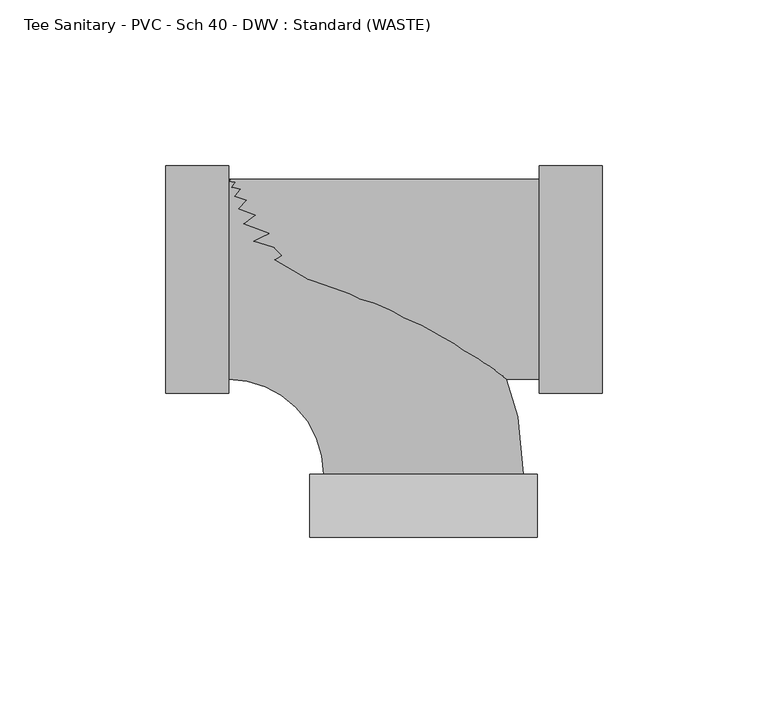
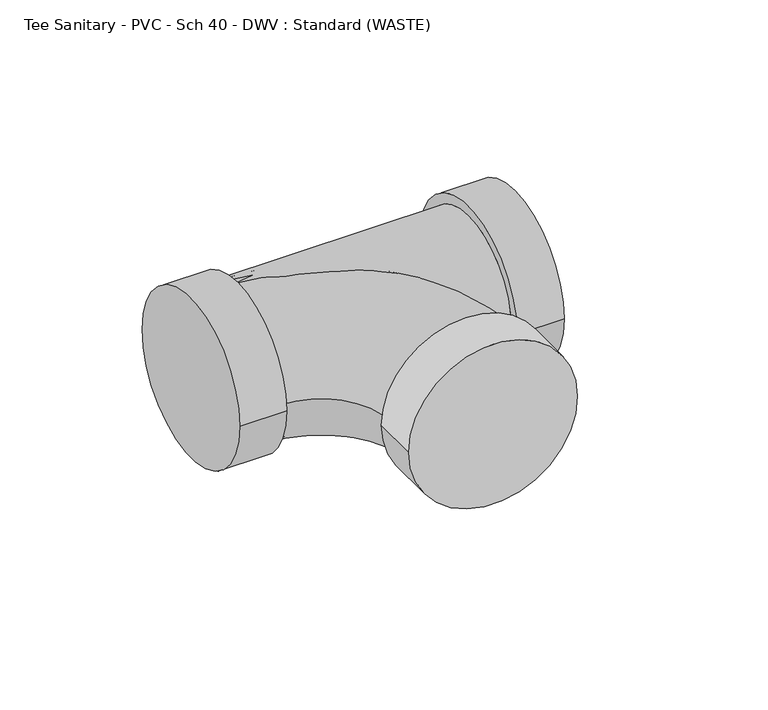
"""IFC4 building model written with IfcOpenShell, lengths in millimetres: pipe fitting geometry, Tee Sanitary - PVC - Sch 40 - DWV : Standard (WASTE)."""

from ifc_helpers import new_model, si_unit, point, frame, origin, place, context, project, spatial, circle_curve, ellipse_curve, trimmed, source, transform, mapped, element, save
from ifc_brep_helpers import plane_surface, cylinder_surface, revolved_surface, advanced_brep


def tee_sanitary_pvc_sch_40_dwv_standard_waste_adc7debc(model_context):
    return source(origin(), model_context, "Body", "AdvancedBrep", [
        advanced_brep(
        [(-58.7502, -30.1625, 0.0), (-58.7502, 30.1625, 0.0), (-30.1625, -58.7502, 0.0), (30.1625, -58.7502, 0.0), (34.3154, -77.8002, 0.0), (-34.3154, -77.8002, 0.0), (34.3154, -58.7502, 0.0), (-34.3154, -58.7502, 0.0)],
        [
            (0, 1, circle_curve(frame((-58.7502, 0.0, 0.0), z_axis=(-1.0, 0.0, 0.0), x_axis=(0.0, 1.0, 0.0)), 30.1625)),
            (1, 0, circle_curve(frame((-58.7502, 0.0, 0.0), z_axis=(-1.0, 0.0, 0.0), x_axis=(0.0, 1.0, 0.0)), 30.1625)),
            (0, 2, circle_curve(frame((-58.7502, -58.7502, 0.0), z_axis=(0.0, 0.0, -1.0), x_axis=(0.0, 1.0, 0.0)), 28.5877)),
            (2, 3, circle_curve(frame((0.0, -58.7502, 0.0), z_axis=(0.0, 1.0, 0.0), x_axis=(1.0, 0.0, 0.0)), 30.1625)),
            (3, 1, circle_curve(frame((-58.7502, -58.7502, 0.0), z_axis=(0.0, 0.0, 1.0), x_axis=(0.0, 1.0, 0.0)), 88.9127)),
            (3, 2, circle_curve(frame((0.0, -58.7502, 0.0), z_axis=(0.0, 1.0, 0.0), x_axis=(1.0, 0.0, 0.0)), 30.1625)),
            (4, 5, circle_curve(frame((0.0, -77.8002, 0.0), z_axis=(0.0, -1.0, 0.0), x_axis=(-1.0, 0.0, 0.0)), 34.3154)),
            (5, 4, circle_curve(frame((0.0, -77.8002, 0.0), z_axis=(0.0, -1.0, 0.0), x_axis=(-1.0, 0.0, 0.0)), 34.3154)),
            (6, 7, circle_curve(frame((0.0, -58.7502, 0.0), z_axis=(0.0, 1.0, 0.0), x_axis=(-1.0, 0.0, 0.0)), 34.3154)),
            (7, 6, circle_curve(frame((0.0, -58.7502, 0.0), z_axis=(0.0, 1.0, 0.0), x_axis=(-1.0, 0.0, 0.0)), 34.3154)),
            (4, 6),
            (7, 5),
        ],
        [
            plane_surface(frame((-58.7502, 0.0, 0.0), z_axis=(-1.0, 0.0, 0.0), x_axis=(0.0, 0.0, 1.0))),
            revolved_surface(trimmed(ellipse_curve(frame((-58.7502, 0.0, 0.0), z_axis=(-1.0, 0.0, 0.0), x_axis=(0.0, 1.0, 0.0)), 30.1625, 30.1625), [point((-58.7502, -30.1625, 0.0))], [point((-58.7502, 30.1625, 0.0))], True, "CARTESIAN"), (-58.7502, -58.7502, 0.0), (0.0, 0.0, -1.0)),
            revolved_surface(trimmed(ellipse_curve(frame((-58.7502, 0.0, 0.0), z_axis=(-1.0, 0.0, 0.0), x_axis=(0.0, 1.0, 0.0)), 30.1625, 30.1625), [point((-58.7502, 30.1625, 0.0))], [point((-58.7502, -30.1625, 0.0))], True, "CARTESIAN"), (-58.7502, -58.7502, 0.0), (0.0, 0.0, -1.0)),
            plane_surface(frame((0.0, -77.8002, 0.0), z_axis=(0.0, -1.0, 0.0), x_axis=(0.0, 0.0, 1.0))),
            plane_surface(frame((0.0, -58.7502, 0.0), z_axis=(0.0, 1.0, 0.0), x_axis=(0.0, 0.0, 1.0))),
            cylinder_surface(frame((0.0, -77.8002, 0.0), z_axis=(0.0, -1.0, 0.0), x_axis=(-1.0, 0.0, 0.0)), 34.3154),
        ],
        [
            (0, [[1, 2]]),
            (1, [[-1, 3, 4, 5]]),
            (2, [[-2, -5, 6, -3]]),
            (3, [[7, 8]]),
            (4, [[9, 10], [-4, -6]]),
            (5, [[-7, 11, -10, 12]]),
            (5, [[-8, -12, -9, -11]]),
        ],
    ),
        advanced_brep(
        [(34.3154, -77.8002, 0.0), (-34.3154, -77.8002, 0.0), (-58.7502, -30.1625, 0.0), (-58.7502, 30.1625, 0.0), (-30.1625, -58.7502, 0.0), (30.1625, -58.7502, 0.0), (34.3154, -58.7502, 0.0), (-34.3154, -58.7502, 0.0)],
        [
            (0, 1, circle_curve(frame((0.0, -77.8002, 0.0), z_axis=(0.0, -1.0, 0.0), x_axis=(-1.0, 0.0, 0.0)), 34.3154)),
            (1, 0, circle_curve(frame((0.0, -77.8002, 0.0), z_axis=(0.0, -1.0, 0.0), x_axis=(-1.0, 0.0, 0.0)), 34.3154)),
            (2, 3, circle_curve(frame((-58.7502, 0.0, 0.0), z_axis=(-1.0, 0.0, 0.0), x_axis=(0.0, 1.0, 0.0)), 30.1625)),
            (3, 2, circle_curve(frame((-58.7502, 0.0, 0.0), z_axis=(-1.0, 0.0, 0.0), x_axis=(0.0, 1.0, 0.0)), 30.1625)),
            (2, 4, circle_curve(frame((-58.7502, -58.7502, 0.0), z_axis=(0.0, 0.0, -1.0), x_axis=(0.0, 1.0, 0.0)), 28.5877)),
            (4, 5, circle_curve(frame((0.0, -58.7502, 0.0), z_axis=(0.0, 1.0, 0.0), x_axis=(1.0, 0.0, 0.0)), 30.1625)),
            (5, 3, circle_curve(frame((-58.7502, -58.7502, 0.0), z_axis=(0.0, 0.0, 1.0), x_axis=(0.0, 1.0, 0.0)), 88.9127)),
            (5, 4, circle_curve(frame((0.0, -58.7502, 0.0), z_axis=(0.0, 1.0, 0.0), x_axis=(1.0, 0.0, 0.0)), 30.1625)),
            (6, 7, circle_curve(frame((0.0, -58.7502, 0.0), z_axis=(0.0, 1.0, 0.0), x_axis=(-1.0, 0.0, 0.0)), 34.3154)),
            (7, 6, circle_curve(frame((0.0, -58.7502, 0.0), z_axis=(0.0, 1.0, 0.0), x_axis=(-1.0, 0.0, 0.0)), 34.3154)),
            (0, 6),
            (7, 1),
        ],
        [
            plane_surface(frame((0.0, -77.8002, 0.0), z_axis=(0.0, -1.0, 0.0), x_axis=(0.0, 0.0, 1.0))),
            plane_surface(frame((-58.7502, 0.0, 0.0), z_axis=(-1.0, 0.0, 0.0), x_axis=(0.0, 0.0, 1.0))),
            revolved_surface(trimmed(ellipse_curve(frame((-58.7502, 0.0, 0.0), z_axis=(-1.0, 0.0, 0.0), x_axis=(0.0, 1.0, 0.0)), 30.1625, 30.1625), [point((-58.7502, -30.1625, 0.0))], [point((-58.7502, 30.1625, 0.0))], True, "CARTESIAN"), (-58.7502, -58.7502, 0.0), (0.0, 0.0, -1.0)),
            revolved_surface(trimmed(ellipse_curve(frame((-58.7502, 0.0, 0.0), z_axis=(-1.0, 0.0, 0.0), x_axis=(0.0, 1.0, 0.0)), 30.1625, 30.1625), [point((-58.7502, 30.1625, 0.0))], [point((-58.7502, -30.1625, 0.0))], True, "CARTESIAN"), (-58.7502, -58.7502, 0.0), (0.0, 0.0, -1.0)),
            plane_surface(frame((0.0, -58.7502, 0.0), z_axis=(0.0, 1.0, 0.0), x_axis=(0.0, 0.0, 1.0))),
            cylinder_surface(frame((0.0, -77.8002, 0.0), z_axis=(0.0, -1.0, 0.0), x_axis=(-1.0, 0.0, 0.0)), 34.3154),
        ],
        [
            (0, [[1, 2]]),
            (1, [[3, 4]]),
            (2, [[-3, 5, 6, 7]]),
            (3, [[-4, -7, 8, -5]]),
            (4, [[9, 10], [-6, -8]]),
            (5, [[-1, 11, -10, 12]]),
            (5, [[-2, -12, -9, -11]]),
        ],
    ),
        advanced_brep(
        [(-58.7502, -30.1625, 0.0), (34.925, -30.1625, 0.0), (34.925, 30.1625, 0.0), (-58.7502, 30.1625, 0.0), (34.925, -34.3154, 0.0), (34.925, 34.3154, 0.0), (53.975, -34.3154, 0.0), (53.975, 34.3154, 0.0), (-77.8002, -34.3154, 0.0), (-77.8002, 34.3154, 0.0), (-58.7502, -34.3154, 0.0), (-58.7502, 34.3154, 0.0)],
        [
            (0, 1),
            (1, 2, circle_curve(frame((34.925, 0.0, 0.0), z_axis=(-1.0, 0.0, 0.0), x_axis=(0.0, 1.0, 0.0)), 30.1625)),
            (2, 3),
            (3, 0, circle_curve(frame((-58.7502, 0.0, 0.0), z_axis=(1.0, 0.0, 0.0), x_axis=(0.0, 1.0, 0.0)), 30.1625)),
            (0, 3, circle_curve(frame((-58.7502, 0.0, 0.0), z_axis=(1.0, 0.0, 0.0), x_axis=(0.0, 1.0, 0.0)), 30.1625)),
            (2, 1, circle_curve(frame((34.925, 0.0, 0.0), z_axis=(-1.0, 0.0, 0.0), x_axis=(0.0, 1.0, 0.0)), 30.1625)),
            (4, 5, circle_curve(frame((34.925, 0.0, 0.0), z_axis=(-1.0, 0.0, 0.0), x_axis=(0.0, 1.0, 0.0)), 34.3154)),
            (5, 4, circle_curve(frame((34.925, 0.0, 0.0), z_axis=(-1.0, 0.0, 0.0), x_axis=(0.0, 1.0, 0.0)), 34.3154)),
            (6, 7, circle_curve(frame((53.975, 0.0, 0.0), z_axis=(1.0, 0.0, 0.0), x_axis=(0.0, 1.0, 0.0)), 34.3154)),
            (7, 6, circle_curve(frame((53.975, 0.0, 0.0), z_axis=(1.0, 0.0, 0.0), x_axis=(0.0, 1.0, 0.0)), 34.3154)),
            (4, 6),
            (7, 5),
            (8, 9, circle_curve(frame((-77.8002, 0.0, 0.0), z_axis=(-1.0, 0.0, 0.0), x_axis=(0.0, 1.0, 0.0)), 34.3154)),
            (9, 8, circle_curve(frame((-77.8002, 0.0, 0.0), z_axis=(-1.0, 0.0, 0.0), x_axis=(0.0, 1.0, 0.0)), 34.3154)),
            (10, 11, circle_curve(frame((-58.7502, 0.0, 0.0), z_axis=(1.0, 0.0, 0.0), x_axis=(0.0, 1.0, 0.0)), 34.3154)),
            (11, 10, circle_curve(frame((-58.7502, 0.0, 0.0), z_axis=(1.0, 0.0, 0.0), x_axis=(0.0, 1.0, 0.0)), 34.3154)),
            (8, 10),
            (11, 9),
        ],
        [
            cylinder_surface(frame((-58.7502, 0.0, 0.0), z_axis=(-1.0, 0.0, 0.0), x_axis=(0.0, 1.0, 0.0)), 30.1625),
            plane_surface(frame((34.925, 0.0, 0.0), z_axis=(-1.0, 0.0, 0.0), x_axis=(0.0, 0.0, 1.0))),
            plane_surface(frame((53.975, 0.0, 0.0), z_axis=(1.0, 0.0, 0.0), x_axis=(0.0, 0.0, 1.0))),
            cylinder_surface(frame((34.925, 0.0, 0.0), z_axis=(-1.0, 0.0, 0.0), x_axis=(0.0, 1.0, 0.0)), 34.3154),
            plane_surface(frame((-77.8002, 0.0, 0.0), z_axis=(-1.0, 0.0, 0.0), x_axis=(0.0, 0.0, 1.0))),
            plane_surface(frame((-58.7502, 0.0, 0.0), z_axis=(1.0, 0.0, 0.0), x_axis=(0.0, 0.0, 1.0))),
            cylinder_surface(frame((-77.8002, 0.0, 0.0), z_axis=(-1.0, 0.0, 0.0), x_axis=(0.0, 1.0, 0.0)), 34.3154),
        ],
        [
            (0, [[1, 2, 3, 4]]),
            (0, [[-1, 5, -3, 6]]),
            (1, [[7, 8], [-2, -6]]),
            (2, [[9, 10]]),
            (3, [[-7, 11, -10, 12]]),
            (3, [[-8, -12, -9, -11]]),
            (4, [[13, 14]]),
            (5, [[15, 16], [-4, -5]]),
            (6, [[-13, 17, -16, 18]]),
            (6, [[-14, -18, -15, -17]]),
        ],
    ),
        advanced_brep(
        [(-77.8002, -34.3154, 0.0), (-77.8002, 34.3154, 0.0), (-58.7502, -34.3154, 0.0), (-58.7502, 34.3154, 0.0), (-58.7502, -30.1625, 0.0), (-58.7502, 30.1625, 0.0), (34.925, -30.1625, 0.0), (34.925, 30.1625, 0.0), (53.975, 34.3154, 0.0), (53.975, -34.3154, 0.0), (34.925, 34.3154, 0.0), (34.925, -34.3154, 0.0)],
        [
            (0, 1, circle_curve(frame((-77.8002, 0.0, 0.0), z_axis=(-1.0, 0.0, 0.0), x_axis=(0.0, 1.0, 0.0)), 34.3154)),
            (1, 0, circle_curve(frame((-77.8002, 0.0, 0.0), z_axis=(-1.0, 0.0, 0.0), x_axis=(0.0, 1.0, 0.0)), 34.3154)),
            (2, 3, circle_curve(frame((-58.7502, 0.0, 0.0), z_axis=(1.0, 0.0, 0.0), x_axis=(0.0, 1.0, 0.0)), 34.3154)),
            (3, 2, circle_curve(frame((-58.7502, 0.0, 0.0), z_axis=(1.0, 0.0, 0.0), x_axis=(0.0, 1.0, 0.0)), 34.3154)),
            (4, 5, circle_curve(frame((-58.7502, 0.0, 0.0), z_axis=(-1.0, 0.0, 0.0), x_axis=(0.0, 1.0, 0.0)), 30.1625)),
            (5, 4, circle_curve(frame((-58.7502, 0.0, 0.0), z_axis=(-1.0, 0.0, 0.0), x_axis=(0.0, 1.0, 0.0)), 30.1625)),
            (0, 2),
            (3, 1),
            (4, 6),
            (6, 7, circle_curve(frame((34.925, 0.0, 0.0), z_axis=(-1.0, 0.0, 0.0), x_axis=(0.0, 1.0, 0.0)), 30.1625)),
            (7, 5),
            (7, 6, circle_curve(frame((34.925, 0.0, 0.0), z_axis=(-1.0, 0.0, 0.0), x_axis=(0.0, 1.0, 0.0)), 30.1625)),
            (8, 9, circle_curve(frame((53.975, 0.0, 0.0), z_axis=(1.0, 0.0, 0.0), x_axis=(0.0, -1.0, 0.0)), 34.3154)),
            (9, 8, circle_curve(frame((53.975, 0.0, 0.0), z_axis=(1.0, 0.0, 0.0), x_axis=(0.0, -1.0, 0.0)), 34.3154)),
            (10, 11, circle_curve(frame((34.925, 0.0, 0.0), z_axis=(-1.0, 0.0, 0.0), x_axis=(0.0, -1.0, 0.0)), 34.3154)),
            (11, 10, circle_curve(frame((34.925, 0.0, 0.0), z_axis=(-1.0, 0.0, 0.0), x_axis=(0.0, -1.0, 0.0)), 34.3154)),
            (8, 10),
            (11, 9),
        ],
        [
            plane_surface(frame((-77.8002, 0.0, 0.0), z_axis=(-1.0, 0.0, 0.0), x_axis=(0.0, 0.0, 1.0))),
            plane_surface(frame((-58.7502, 0.0, 0.0), z_axis=(1.0, 0.0, 0.0), x_axis=(0.0, 0.0, 1.0))),
            cylinder_surface(frame((-77.8002, 0.0, 0.0), z_axis=(-1.0, 0.0, 0.0), x_axis=(0.0, 1.0, 0.0)), 34.3154),
            cylinder_surface(frame((-58.7502, 0.0, 0.0), z_axis=(-1.0, 0.0, 0.0), x_axis=(0.0, 1.0, 0.0)), 30.1625),
            plane_surface(frame((53.975, 0.0, 0.0), z_axis=(1.0, 0.0, 0.0), x_axis=(0.0, 0.0, 1.0))),
            plane_surface(frame((34.925, 0.0, 0.0), z_axis=(-1.0, 0.0, 0.0), x_axis=(0.0, 0.0, 1.0))),
            cylinder_surface(frame((53.975, 0.0, 0.0), z_axis=(1.0, 0.0, 0.0), x_axis=(0.0, -1.0, 0.0)), 34.3154),
        ],
        [
            (0, [[1, 2]]),
            (1, [[3, 4], [5, 6]]),
            (2, [[-1, 7, -4, 8]]),
            (2, [[-2, -8, -3, -7]]),
            (3, [[9, 10, 11, -5]]),
            (3, [[-9, -6, -11, 12]]),
            (4, [[13, 14]]),
            (5, [[15, 16], [-10, -12]]),
            (6, [[-13, 17, -16, 18]]),
            (6, [[-14, -18, -15, -17]]),
        ],
    ),
    ])


if __name__ == "__main__":
    model = new_model("IFC4")
    model_context = context("Model", 3, world=origin())
    ifc_project = project(units=[si_unit("LENGTHUNIT", "METRE", prefix="MILLI")], contexts=[model_context])
    site = spatial("IfcSite", under=ifc_project)
    building = spatial("IfcBuilding", under=site)
    placement = place(None, origin())
    tee_sanitary_pvc_sch_40_dwv_standard_waste_shape = tee_sanitary_pvc_sch_40_dwv_standard_waste_adc7debc(model_context)
    element("IfcPipeFitting", 1, ObjectType="Tee Sanitary - PVC - Sch 40 - DWV : Standard (WASTE)", at=placement, inside=building, context=model_context, shape_type="MappedRepresentation", body=[
        mapped(tee_sanitary_pvc_sch_40_dwv_standard_waste_shape, transform((0.0, 0.0, 0.0), x_axis=(1.0, 0.0, 0.0), y_axis=(0.0, 1.0, 0.0), z_axis=(0.0, 0.0, 1.0))),
    ])
    save(model, "model.ifc")
